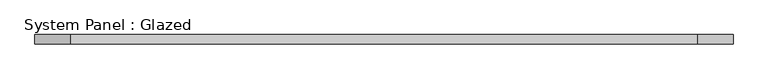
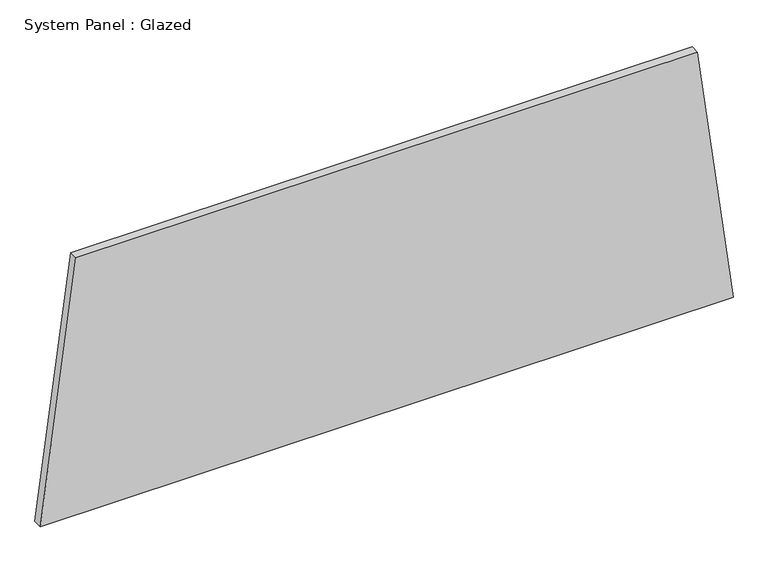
"""IFC4 building model written with IfcOpenShell, lengths in millimetres: plate geometry, System Panel : Glazed."""

from ifc_helpers import new_model, si_unit, frame, origin, place, context, project, spatial, polyline, outline, extrude, source, transform, mapped, element, save


def system_panel_glazed_079f8796(model_context):
    return source(origin(), model_context, "Body", "SweptSolid", [
        extrude(outline(polyline([(0.0, -930.9366213), (0.0, 930.9366213), (730.1376435, 835.2362053), (730.1376435, -835.2362053), (0.0, -930.9366213)])), frame((0.0, 19.05, 0.0), z_axis=(0.0, 1.0, 0.0), x_axis=(0.0, 0.0, 1.0)), (0.0, 0.0, 1.0), 25.4),
    ])


if __name__ == "__main__":
    model = new_model("IFC4")
    model_context = context("Model", 3, world=origin())
    ifc_project = project(units=[si_unit("LENGTHUNIT", "METRE", prefix="MILLI")], contexts=[model_context])
    site = spatial("IfcSite", under=ifc_project)
    building = spatial("IfcBuilding", under=site)
    placement = place(None, origin())
    system_panel_glazed_shape = system_panel_glazed_079f8796(model_context)
    element("IfcPlate", 1, ObjectType="System Panel : Glazed", at=placement, inside=building, context=model_context, shape_type="MappedRepresentation", body=[
        mapped(system_panel_glazed_shape, transform((0.0, 0.0, 0.0), x_axis=(1.0, 0.0, 0.0), y_axis=(0.0, 1.0, 0.0), z_axis=(0.0, 0.0, 1.0))),
    ])
    save(model, "model.ifc")
